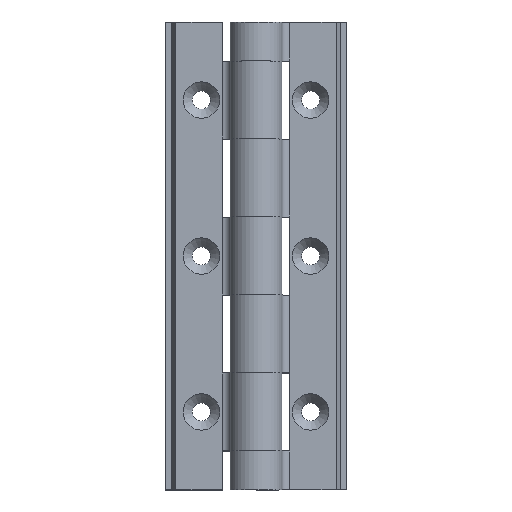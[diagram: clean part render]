
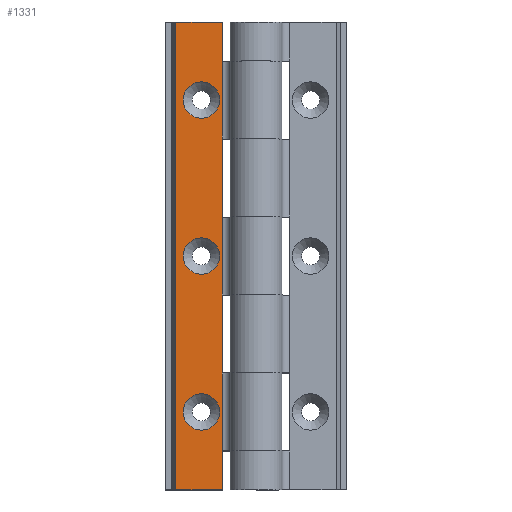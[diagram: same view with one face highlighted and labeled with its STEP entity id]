
A CAD part, top view. The second image highlights one B-rep face of the part: STEP entity #1331.
In plain terms, the highlighted planar face has unit normal (0, 0, 1) as drawn and (0, -1, 0) by its records, which use the part's own axes.
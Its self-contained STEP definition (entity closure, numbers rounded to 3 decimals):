
#59=LINE('',#2048,#162);
#60=LINE('',#2056,#163);
#76=LINE('',#2102,#179);
#83=LINE('',#2126,#186);
#85=LINE('',#2130,#188);
#87=LINE('',#2134,#190);
#90=LINE('',#2140,#193);
#92=LINE('',#2144,#195);
#93=LINE('',#2146,#196);
#95=LINE('',#2150,#198);
#96=LINE('',#2162,#199);
#97=LINE('',#2163,#200);
#162=VECTOR('',#1633,1000.);
#163=VECTOR('',#1642,1000.);
#179=VECTOR('',#1680,1000.);
#186=VECTOR('',#1705,1000.);
#188=VECTOR('',#1709,1000.);
#190=VECTOR('',#1713,1000.);
#193=VECTOR('',#1718,1000.);
#195=VECTOR('',#1722,1000.);
#196=VECTOR('',#1725,1000.);
#198=VECTOR('',#1729,1000.);
#199=VECTOR('',#1744,1000.);
#200=VECTOR('',#1745,1000.);
#414=ORIENTED_EDGE('',*,*,#702,.T.);
#415=ORIENTED_EDGE('',*,*,#725,.T.);
#416=ORIENTED_EDGE('',*,*,#723,.T.);
#417=ORIENTED_EDGE('',*,*,#672,.T.);
#418=ORIENTED_EDGE('',*,*,#727,.T.);
#419=ORIENTED_EDGE('',*,*,#676,.T.);
#420=ORIENTED_EDGE('',*,*,#728,.F.);
#421=ORIENTED_EDGE('',*,*,#699,.T.);
#422=ORIENTED_EDGE('',*,*,#722,.T.);
#423=ORIENTED_EDGE('',*,*,#720,.T.);
#424=ORIENTED_EDGE('',*,*,#719,.T.);
#425=ORIENTED_EDGE('',*,*,#717,.F.);
#426=ORIENTED_EDGE('',*,*,#714,.F.);
#427=ORIENTED_EDGE('',*,*,#712,.T.);
#428=ORIENTED_EDGE('',*,*,#710,.T.);
#672=EDGE_CURVE('',#847,#846,#59,.F.);
#676=EDGE_CURVE('',#848,#849,#60,.F.);
#699=EDGE_CURVE('',#869,#870,#76,.F.);
#702=EDGE_CURVE('',#871,#871,#979,.F.);
#710=EDGE_CURVE('',#877,#847,#83,.T.);
#712=EDGE_CURVE('',#878,#877,#85,.T.);
#714=EDGE_CURVE('',#878,#879,#87,.T.);
#717=EDGE_CURVE('',#879,#880,#90,.T.);
#719=EDGE_CURVE('',#881,#880,#92,.T.);
#720=EDGE_CURVE('',#882,#881,#93,.T.);
#722=EDGE_CURVE('',#870,#882,#95,.T.);
#723=EDGE_CURVE('',#883,#883,#981,.F.);
#725=EDGE_CURVE('',#885,#885,#983,.F.);
#727=EDGE_CURVE('',#846,#848,#96,.T.);
#728=EDGE_CURVE('',#869,#849,#97,.T.);
#846=VERTEX_POINT('',#2047);
#847=VERTEX_POINT('',#2049);
#848=VERTEX_POINT('',#2053);
#849=VERTEX_POINT('',#2055);
#869=VERTEX_POINT('',#2103);
#870=VERTEX_POINT('',#2104);
#871=VERTEX_POINT('',#2109);
#877=VERTEX_POINT('',#2127);
#878=VERTEX_POINT('',#2131);
#879=VERTEX_POINT('',#2135);
#880=VERTEX_POINT('',#2139);
#881=VERTEX_POINT('',#2143);
#882=VERTEX_POINT('',#2147);
#883=VERTEX_POINT('',#2153);
#885=VERTEX_POINT('',#2158);
#979=CIRCLE('',#1461,3.5);
#981=CIRCLE('',#1474,3.5);
#983=CIRCLE('',#1477,3.5);
#1067=EDGE_LOOP('',(#414));
#1068=EDGE_LOOP('',(#415));
#1069=EDGE_LOOP('',(#416));
#1070=EDGE_LOOP('',(#417,#418,#419,#420,#421,#422,#423,#424,#425,#426,#427,
#428));
#1188=FACE_BOUND('',#1067,.T.);
#1189=FACE_BOUND('',#1068,.T.);
#1190=FACE_BOUND('',#1069,.T.);
#1191=FACE_BOUND('',#1070,.T.);
#1278=PLANE('',#1479);
#1331=ADVANCED_FACE('',(#1188,#1189,#1190,#1191),#1278,.T.);
#1461=AXIS2_PLACEMENT_3D('',#2108,#1687,#1688);
#1474=AXIS2_PLACEMENT_3D('',#2152,#1732,#1733);
#1477=AXIS2_PLACEMENT_3D('',#2157,#1738,#1739);
#1479=AXIS2_PLACEMENT_3D('',#2161,#1742,#1743);
#1633=DIRECTION('',(0.,0.,-1.));
#1642=DIRECTION('',(0.,0.,-1.));
#1680=DIRECTION('',(0.,0.,-1.));
#1687=DIRECTION('',(0.,-1.,0.));
#1688=DIRECTION('',(0.,0.,-1.));
#1705=DIRECTION('',(1.,0.,0.));
#1709=DIRECTION('',(0.,0.,1.));
#1713=DIRECTION('',(-1.,0.,0.));
#1718=DIRECTION('',(0.,0.,1.));
#1722=DIRECTION('',(-1.,0.,0.));
#1725=DIRECTION('',(0.,0.,1.));
#1729=DIRECTION('',(-1.,0.,0.));
#1732=DIRECTION('',(0.,-1.,0.));
#1733=DIRECTION('',(0.,0.,-1.));
#1738=DIRECTION('',(0.,-1.,0.));
#1739=DIRECTION('',(0.,0.,-1.));
#1742=DIRECTION('',(0.,-1.,0.));
#1743=DIRECTION('',(1.,0.,0.));
#1744=DIRECTION('',(0.,0.,1.));
#1745=DIRECTION('',(0.,0.,-1.));
#2047=CARTESIAN_POINT('',(-0.247,1.7,-22.5));
#2048=CARTESIAN_POINT('',(-0.247,1.7,-15.));
#2049=CARTESIAN_POINT('',(-0.247,1.7,-37.5));
#2053=CARTESIAN_POINT('',(-0.247,1.7,-7.5));
#2055=CARTESIAN_POINT('',(-0.247,1.7,7.5));
#2056=CARTESIAN_POINT('',(-0.247,1.7,-15.));
#2102=CARTESIAN_POINT('',(-0.247,1.7,-15.));
#2103=CARTESIAN_POINT('',(-0.247,1.7,22.5));
#2104=CARTESIAN_POINT('',(-0.247,1.7,37.5));
#2108=CARTESIAN_POINT('',(-4.25,1.7,0.));
#2109=CARTESIAN_POINT('',(-4.25,1.7,-3.5));
#2126=CARTESIAN_POINT('',(-0.25,1.7,-37.5));
#2127=CARTESIAN_POINT('',(-0.25,1.7,-37.5));
#2130=CARTESIAN_POINT('',(-0.25,1.7,-15.));
#2131=CARTESIAN_POINT('',(-0.25,1.7,-45.));
#2134=CARTESIAN_POINT('',(-0.25,1.7,-45.));
#2135=CARTESIAN_POINT('',(-9.158,1.7,-45.));
#2139=CARTESIAN_POINT('',(-9.158,1.7,45.));
#2140=CARTESIAN_POINT('',(-9.158,1.7,-15.));
#2143=CARTESIAN_POINT('',(-0.25,1.7,45.));
#2144=CARTESIAN_POINT('',(-0.25,1.7,45.));
#2146=CARTESIAN_POINT('',(-0.25,1.7,6.));
#2147=CARTESIAN_POINT('',(-0.25,1.7,37.5));
#2150=CARTESIAN_POINT('',(-0.231,1.7,37.5));
#2152=CARTESIAN_POINT('',(-4.25,1.7,-30.));
#2153=CARTESIAN_POINT('',(-4.25,1.7,-33.5));
#2157=CARTESIAN_POINT('',(-4.25,1.7,30.));
#2158=CARTESIAN_POINT('',(-4.25,1.7,26.5));
#2161=CARTESIAN_POINT('',(-0.231,1.7,-15.));
#2162=CARTESIAN_POINT('',(-0.247,1.7,-15.));
#2163=CARTESIAN_POINT('',(-0.247,1.7,-15.));
